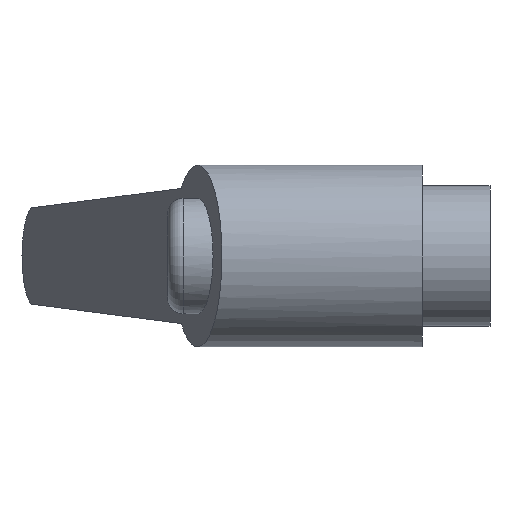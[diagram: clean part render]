
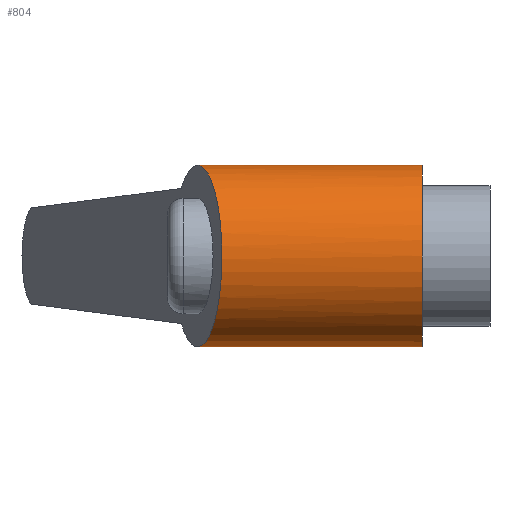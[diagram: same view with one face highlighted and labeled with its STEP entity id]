
A CAD part, left-side view. The second image highlights one B-rep face of the part: STEP entity #804.
In plain terms, the highlighted cylindrical face has radius 8.75 mm (diameter 17.5 mm), a partial arc.
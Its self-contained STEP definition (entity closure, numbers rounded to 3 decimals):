
#29 = CARTESIAN_POINT ( 'NONE',  ( -1.144, 27.813, -8.694 ) ) ;
#44 = CARTESIAN_POINT ( 'NONE',  ( -5.099, 26.753, 7.116 ) ) ;
#165 = CARTESIAN_POINT ( 'NONE',  ( 0., 0., 0. ) ) ;
#180 = CARTESIAN_POINT ( 'NONE',  ( 0., 28.119, -8.75 ) ) ;
#188 = CYLINDRICAL_SURFACE ( 'NONE', #1530, 8.75 ) ;
#210 = CARTESIAN_POINT ( 'NONE',  ( -6.583, 26.355, 5.771 ) ) ;
#218 = VERTEX_POINT ( 'NONE', #678 ) ;
#239 = CARTESIAN_POINT ( 'NONE',  ( -8.694, 25.79, -1.144 ) ) ;
#261 = CARTESIAN_POINT ( 'NONE',  ( -2.818, 27.364, 8.304 ) ) ;
#323 = ORIENTED_EDGE ( 'NONE', *, *, #1626, .F. ) ;
#393 = CARTESIAN_POINT ( 'NONE',  ( -6.593, 26.353, -5.781 ) ) ;
#407 = CARTESIAN_POINT ( 'NONE',  ( -6.956, 26.255, -5.339 ) ) ;
#415 = VERTEX_POINT ( 'NONE', #1585 ) ;
#421 = CARTESIAN_POINT ( 'NONE',  ( -4.384, 26.944, 7.594 ) ) ;
#442 = CARTESIAN_POINT ( 'NONE',  ( -8.75, 25.775, -0.574 ) ) ;
#532 = CARTESIAN_POINT ( 'NONE',  ( 0., 6.5, 0. ) ) ;
#543 = ORIENTED_EDGE ( 'NONE', *, *, #1210, .T. ) ;
#576 = DIRECTION ( 'NONE',  ( 0., 0., -1. ) ) ;
#593 = EDGE_LOOP ( 'NONE', ( #323, #1541, #543, #607 ) ) ;
#596 = CARTESIAN_POINT ( 'NONE',  ( -5.331, 26.691, 6.945 ) ) ;
#597 = CARTESIAN_POINT ( 'NONE',  ( 0., 0., 8.75 ) ) ;
#607 = ORIENTED_EDGE ( 'NONE', *, *, #1280, .F. ) ;
#611 = CARTESIAN_POINT ( 'NONE',  ( -8.694, 25.79, 1.145 ) ) ;
#678 = CARTESIAN_POINT ( 'NONE',  ( 0., 28.119, 8.75 ) ) ;
#738 = DIRECTION ( 'NONE',  ( 0., -1., 0. ) ) ;
#750 = CARTESIAN_POINT ( 'NONE',  ( -8.526, 25.835, 1.988 ) ) ;
#763 = CARTESIAN_POINT ( 'NONE',  ( -5.339, 26.689, -6.956 ) ) ;
#785 = DIRECTION ( 'NONE',  ( 0., -1., 0. ) ) ;
#801 = CARTESIAN_POINT ( 'NONE',  ( -6.39, 26.407, 5.985 ) ) ;
#804 = ADVANCED_FACE ( 'NONE', ( #1646 ), #188, .T. ) ;
#891 = CARTESIAN_POINT ( 'NONE',  ( -3.879, 27.08, -7.864 ) ) ;
#911 = DIRECTION ( 'NONE',  ( 0., -1., 0. ) ) ;
#919 = LINE ( 'NONE', #1641, #2238 ) ;
#932 = CARTESIAN_POINT ( 'NONE',  ( -3.878, 27.08, 7.864 ) ) ;
#943 = CARTESIAN_POINT ( 'NONE',  ( -8.304, 25.894, -2.818 ) ) ;
#957 = CARTESIAN_POINT ( 'NONE',  ( -7.116, 26.212, 5.1 ) ) ;
#970 = DIRECTION ( 'NONE',  ( 0., -1., 0. ) ) ;
#1106 = CARTESIAN_POINT ( 'NONE',  ( -8.194, 25.924, 3.084 ) ) ;
#1117 = CARTESIAN_POINT ( 'NONE',  ( -1.144, 27.813, 8.694 ) ) ;
#1163 = CARTESIAN_POINT ( 'NONE',  ( -8.291, 25.898, 2.813 ) ) ;
#1190 = CIRCLE ( 'NONE', #1907, 8.75 ) ;
#1210 = EDGE_CURVE ( 'NONE', #415, #2295, #919, .T. ) ;
#1280 = EDGE_CURVE ( 'NONE', #1363, #2295, #1190, .T. ) ;
#1312 = CARTESIAN_POINT ( 'NONE',  ( 0., 28.119, 8.75 ) ) ;
#1315 = VECTOR ( 'NONE', #970, 1000. ) ;
#1328 = CARTESIAN_POINT ( 'NONE',  ( -5.773, 26.572, 6.582 ) ) ;
#1338 = CARTESIAN_POINT ( 'NONE',  ( -4.383, 26.945, -7.595 ) ) ;
#1351 = CARTESIAN_POINT ( 'NONE',  ( 0., 6.5, 8.75 ) ) ;
#1363 = VERTEX_POINT ( 'NONE', #1351 ) ;
#1441 = B_SPLINE_CURVE_WITH_KNOTS ( 'NONE', 3,
 ( #180, #2061, #29, #1537, #2217, #891, #1338, #763, #2200, #393, #407, #1491, #1519, #943, #2045, #239, #442, #2059, #611, #750, #2214, #1163, #1106, #2229, #1857, #1480, #1886, #957, #1831, #210, #801, #2174, #1328, #596, #44, #421, #932, #261, #1470, #1117, #1678, #1312 ),
 .UNSPECIFIED., .F., .F.,
 ( 4, 2, 2, 2, 2, 2, 2, 2, 2, 2, 2, 2, 2, 2, 2, 2, 2, 2, 2, 2, 4 ),
 ( 0., 0.062, 0.125, 0.187, 0.25, 0.312, 0.375, 0.437, 0.5, 0.562, 0.594, 0.625, 0.656, 0.687, 0.719, 0.75, 0.781, 0.812, 0.875, 0.937, 1. ),
 .UNSPECIFIED. ) ;
#1470 = CARTESIAN_POINT ( 'NONE',  ( -2.27, 27.511, 8.47 ) ) ;
#1480 = CARTESIAN_POINT ( 'NONE',  ( -7.582, 26.087, 4.376 ) ) ;
#1491 = CARTESIAN_POINT ( 'NONE',  ( -7.594, 26.084, -4.384 ) ) ;
#1519 = CARTESIAN_POINT ( 'NONE',  ( -7.864, 26.012, -3.879 ) ) ;
#1530 = AXIS2_PLACEMENT_3D ( 'NONE', #165, #911, #576 ) ;
#1537 = CARTESIAN_POINT ( 'NONE',  ( -2.27, 27.511, -8.47 ) ) ;
#1541 = ORIENTED_EDGE ( 'NONE', *, *, #1676, .F. ) ;
#1585 = CARTESIAN_POINT ( 'NONE',  ( 0., 28.119, -8.75 ) ) ;
#1626 = EDGE_CURVE ( 'NONE', #218, #1363, #2067, .T. ) ;
#1641 = CARTESIAN_POINT ( 'NONE',  ( 0., 0., -8.75 ) ) ;
#1646 = FACE_OUTER_BOUND ( 'NONE', #593, .T. ) ;
#1676 = EDGE_CURVE ( 'NONE', #415, #218, #1441, .T. ) ;
#1678 = CARTESIAN_POINT ( 'NONE',  ( -0.575, 27.965, 8.75 ) ) ;
#1831 = CARTESIAN_POINT ( 'NONE',  ( -6.946, 26.258, 5.329 ) ) ;
#1857 = CARTESIAN_POINT ( 'NONE',  ( -7.852, 26.015, 3.872 ) ) ;
#1886 = CARTESIAN_POINT ( 'NONE',  ( -7.434, 26.127, 4.623 ) ) ;
#1907 = AXIS2_PLACEMENT_3D ( 'NONE', #532, #738, #1953 ) ;
#1953 = DIRECTION ( 'NONE',  ( 0., 0., -1. ) ) ;
#2045 = CARTESIAN_POINT ( 'NONE',  ( -8.47, 25.85, -2.27 ) ) ;
#2059 = CARTESIAN_POINT ( 'NONE',  ( -8.75, 25.775, 0.574 ) ) ;
#2061 = CARTESIAN_POINT ( 'NONE',  ( -0.574, 27.965, -8.75 ) ) ;
#2067 = LINE ( 'NONE', #597, #1315 ) ;
#2174 = CARTESIAN_POINT ( 'NONE',  ( -5.984, 26.516, 6.39 ) ) ;
#2200 = CARTESIAN_POINT ( 'NONE',  ( -5.781, 26.57, -6.594 ) ) ;
#2214 = CARTESIAN_POINT ( 'NONE',  ( -8.456, 25.853, 2.266 ) ) ;
#2217 = CARTESIAN_POINT ( 'NONE',  ( -2.818, 27.364, -8.304 ) ) ;
#2229 = CARTESIAN_POINT ( 'NONE',  ( -7.974, 25.983, 3.614 ) ) ;
#2238 = VECTOR ( 'NONE', #785, 1000. ) ;
#2261 = CARTESIAN_POINT ( 'NONE',  ( 0., 6.5, -8.75 ) ) ;
#2295 = VERTEX_POINT ( 'NONE', #2261 ) ;
